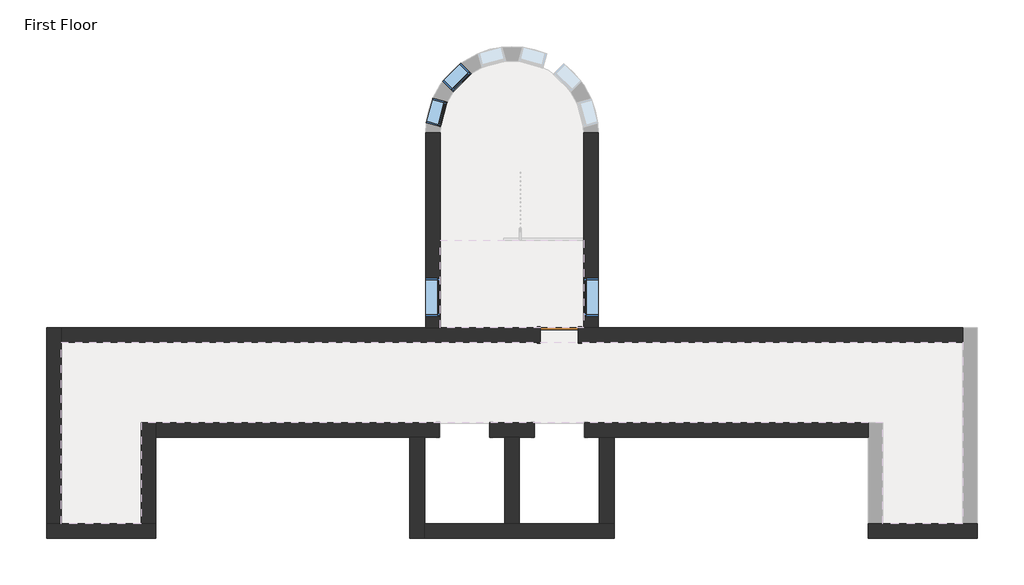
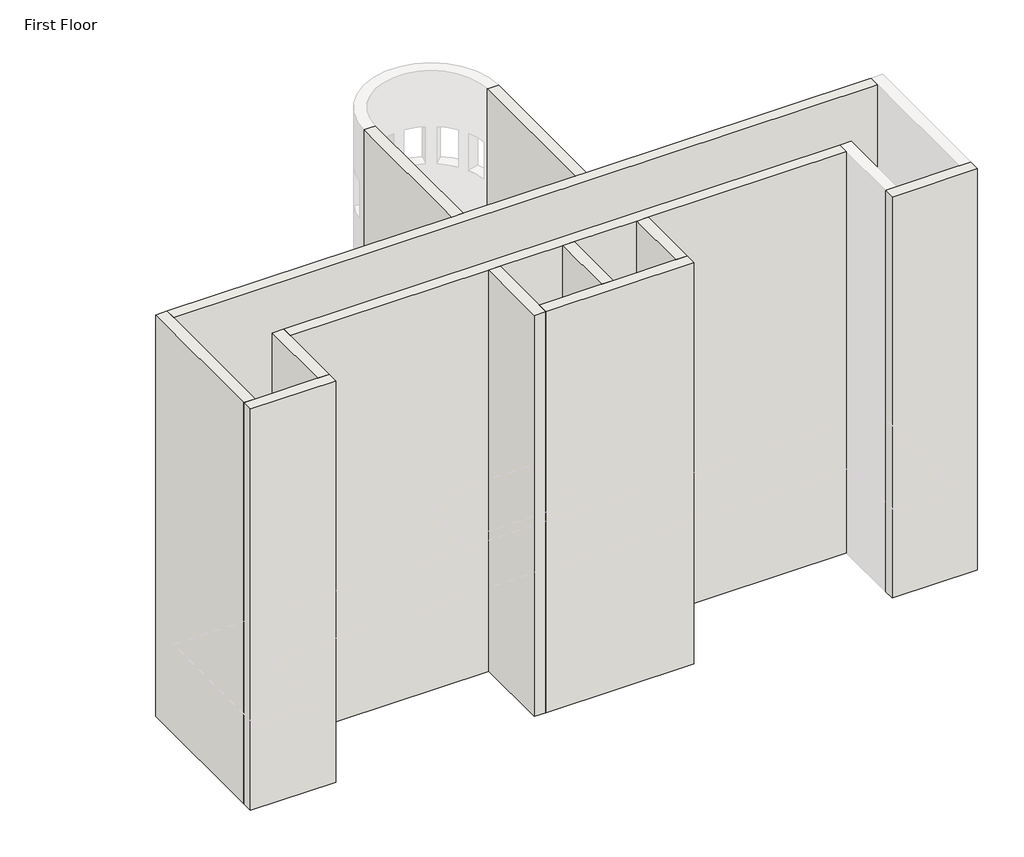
# One storey, part 1 of 5: 12 walls, 4 windows, 1 door.
"""IFC4 building model written with IfcOpenShell, lengths in millimetres."""

from ifc_helpers import new_model, si_unit, frame, origin, origin_with_axes, place, context, project, spatial, polyline, outline, extrude, faceted_brep, transform, mapped, element, save
from components import door_632be17d, window_60baf983, window_15c49d37

model = new_model("IFC4")

# Units and contexts
model_context = context("Model", 3, world=origin())
ifc_project = project(units=[si_unit("LENGTHUNIT", "METRE", prefix="MILLI")], contexts=[model_context])

# Site, building, storey
site = spatial("IfcSite", under=ifc_project)
building = spatial("IfcBuilding", under=site)
storey = spatial("IfcBuildingStorey", under=building, Name="First Floor", Elevation=0.0)

# Door
placement = place(None, origin())
door_shape = door_632be17d(model_context)
element("IfcDoor", 1, ObjectType="Single-Flush : 36\" x 84\"", at=placement, inside=storey, context=model_context, shape_type="MappedRepresentation", body=[
    mapped(door_shape, transform((-5102.6149687, 4715.9758812, 0.0), x_axis=(1.0, 0.0, 0.0), y_axis=(0.0, 1.0, 0.0), z_axis=(0.0, 0.0, 1.0))),
])

# Walls
element("IfcWall", 2, ObjectType="Exterior - Brick on Mtl. Stud", at=placement, inside=storey, context=model_context, shape_type="Brep", body=[
    faceted_brep([(-8707.8274687, 2253.7633812, 0.0), (-8707.8274687, -184.6366188, 0.0), (-8707.8274687, -184.6366188, 13106.4), (-8707.8274687, 2253.7633812, 13106.4), (-8355.4024687, 2253.7633812, 0.0), (-8355.4024687, 2253.7633812, 13106.4), (-8355.4024687, 167.7883812, 13106.4), (-8355.4024687, -184.6366188, 13106.4), (-8355.4024687, -184.6366188, 0.0), (-8355.4024687, 167.7883812, 0.0)], [[[0, 1, 2, 3]], [[4, 5, 6, 7, 8, 9]], [[1, 0, 4, 9, 8]], [[3, 2, 7, 6, 5]], [[2, 1, 8, 7]], [[0, 3, 5, 4]]]),
])
element("IfcWall", 3, ObjectType="Exterior - Brick on Mtl. Stud", at=placement, inside=storey, context=model_context, shape_type="Brep", body=[
    faceted_brep([(-8355.4024687, -184.6366188, 0.0), (-3783.4024687, -184.6366188, 0.0), (-3783.4024687, -184.6366188, 13106.4), (-8355.4024687, -184.6366188, 13106.4), (-8355.4024687, 167.7883812, 0.0), (-8355.4024687, 167.7883812, 13106.4), (-6421.8274687, 167.7883812, 13106.4), (-6069.4024687, 167.7883812, 13106.4), (-4135.8274687, 167.7883812, 13106.4), (-3783.4024687, 167.7883812, 13106.4), (-3783.4024687, 167.7883812, 0.0), (-4135.8274687, 167.7883812, 0.0), (-6069.4024687, 167.7883812, 0.0), (-6421.8274687, 167.7883812, 0.0)], [[[0, 1, 2, 3]], [[4, 5, 6, 7, 8, 9, 10, 11, 12, 13]], [[1, 0, 4, 13, 12, 11, 10]], [[3, 2, 9, 8, 7, 6, 5]], [[2, 1, 10, 9]], [[0, 3, 5, 4]]]),
])
element("IfcWall", 4, ObjectType="Exterior - Brick on Mtl. Stud", at=placement, inside=storey, context=model_context, shape_type="SweptSolid", body=[
    extrude(outline(polyline([(-3783.4024687, 2253.7633812), (-3783.4024687, 167.7883812), (-4135.8274687, 167.7883812), (-4135.8274687, 2253.7633812), (-3783.4024687, 2253.7633812)])), origin_with_axes(), (0.0, 0.0, 1.0), 13106.4),
])
element("IfcWall", 5, ObjectType="Exterior - Brick on Mtl. Stud", at=placement, inside=storey, context=model_context, shape_type="Brep", body=[
    faceted_brep([(-14832.4024687, 2606.1883812, 0.0), (-7998.2149687, 2606.1883812, 0.0), (-7998.2149687, 2253.7633812, 0.0), (-8355.4024687, 2253.7633812, 0.0), (-8707.8274687, 2253.7633812, 0.0), (-14832.4024687, 2253.7633812, 0.0), (-6779.0149687, 2606.1883812, 0.0), (-5712.2149687, 2606.1883812, 0.0), (-5712.2149687, 2253.7633812, 0.0), (-6069.4024687, 2253.7633812, 0.0), (-6421.8274687, 2253.7633812, 0.0), (-6779.0149687, 2253.7633812, 0.0), (-4493.0149687, 2606.1883812, 0.0), (2341.1725313, 2606.1883812, 0.0), (2341.1725313, 2253.7633812, 0.0), (-3783.4024687, 2253.7633812, 0.0), (-4135.8274687, 2253.7633812, 0.0), (-4493.0149687, 2253.7633812, 0.0), (-14832.4024687, 2253.7633812, 13106.4), (-8707.8274687, 2253.7633812, 13106.4), (-8355.4024687, 2253.7633812, 13106.4), (-6421.8274687, 2253.7633812, 13106.4), (-6069.4024687, 2253.7633812, 13106.4), (-4135.8274687, 2253.7633812, 13106.4), (-3783.4024687, 2253.7633812, 13106.4), (2341.1725313, 2253.7633812, 13106.4), (2341.1725313, 2606.1883812, 13106.4), (-14832.4024687, 2606.1883812, 13106.4), (-5712.2149687, 2253.7633812, 2133.6), (-4493.0149687, 2253.7633812, 2133.6), (-7998.2149687, 2253.7633812, 2133.6), (-6779.0149687, 2253.7633812, 2133.6), (-4493.0149687, 2253.7633812, 11277.6), (-4493.0149687, 2253.7633812, 9144.0), (-5712.2149687, 2253.7633812, 9144.0), (-5712.2149687, 2253.7633812, 11277.6), (-6779.0149687, 2253.7633812, 11277.6), (-6779.0149687, 2253.7633812, 9144.0), (-7998.2149687, 2253.7633812, 9144.0), (-7998.2149687, 2253.7633812, 11277.6), (-4493.0149687, 2253.7633812, 5181.6), (-4493.0149687, 2253.7633812, 3048.0), (-5712.2149687, 2253.7633812, 3048.0), (-5712.2149687, 2253.7633812, 5181.6), (-6779.0149687, 2253.7633812, 5181.6), (-6779.0149687, 2253.7633812, 3048.0), (-7998.2149687, 2253.7633812, 3048.0), (-7998.2149687, 2253.7633812, 5181.6), (-4493.0149687, 2253.7633812, 8229.6), (-4493.0149687, 2253.7633812, 6096.0), (-5712.2149687, 2253.7633812, 6096.0), (-5712.2149687, 2253.7633812, 8229.6), (-6779.0149687, 2253.7633812, 8229.6), (-6779.0149687, 2253.7633812, 6096.0), (-7998.2149687, 2253.7633812, 6096.0), (-7998.2149687, 2253.7633812, 8229.6), (-5712.2149687, 2606.1883812, 2133.6), (-6779.0149687, 2606.1883812, 2133.6), (-7998.2149687, 2606.1883812, 2133.6), (-4493.0149687, 2606.1883812, 2133.6), (-4493.0149687, 2606.1883812, 11277.6), (-5712.2149687, 2606.1883812, 11277.6), (-5712.2149687, 2606.1883812, 9144.0), (-4493.0149687, 2606.1883812, 9144.0), (-6779.0149687, 2606.1883812, 11277.6), (-7998.2149687, 2606.1883812, 11277.6), (-7998.2149687, 2606.1883812, 9144.0), (-6779.0149687, 2606.1883812, 9144.0), (-4493.0149687, 2606.1883812, 5181.6), (-5712.2149687, 2606.1883812, 5181.6), (-5712.2149687, 2606.1883812, 3048.0), (-4493.0149687, 2606.1883812, 3048.0), (-6779.0149687, 2606.1883812, 5181.6), (-7998.2149687, 2606.1883812, 5181.6), (-7998.2149687, 2606.1883812, 3048.0), (-6779.0149687, 2606.1883812, 3048.0), (-4493.0149687, 2606.1883812, 8229.6), (-5712.2149687, 2606.1883812, 8229.6), (-5712.2149687, 2606.1883812, 6096.0), (-4493.0149687, 2606.1883812, 6096.0), (-6779.0149687, 2606.1883812, 8229.6), (-7998.2149687, 2606.1883812, 8229.6), (-7998.2149687, 2606.1883812, 6096.0), (-6779.0149687, 2606.1883812, 6096.0)], [[[0, 1, 2, 3, 4, 5]], [[6, 7, 8, 9, 10, 11]], [[12, 13, 14, 15, 16, 17]], [[18, 19, 20, 21, 22, 23, 24, 25, 26, 27]], [[11, 10, 9, 8, 28, 29, 17, 16, 15, 14, 25, 24, 23, 22, 21, 20, 19, 18, 5, 4, 3, 2, 30, 31], [32, 33, 34, 35], [36, 37, 38, 39], [40, 41, 42, 43], [44, 45, 46, 47], [48, 49, 50, 51], [52, 53, 54, 55]], [[56, 7, 6, 57, 58, 1, 0, 27, 26, 13, 12, 59], [60, 61, 62, 63], [64, 65, 66, 67], [68, 69, 70, 71], [72, 73, 74, 75], [76, 77, 78, 79], [80, 81, 82, 83]], [[25, 14, 13, 26]], [[5, 18, 27, 0]], [[11, 31, 57, 6]], [[30, 2, 1, 58]], [[31, 30, 58, 57]], [[17, 29, 59, 12]], [[28, 8, 7, 56]], [[29, 28, 56, 59]], [[33, 32, 60, 63]], [[34, 33, 63, 62]], [[35, 34, 62, 61]], [[32, 35, 61, 60]], [[37, 36, 64, 67]], [[38, 37, 67, 66]], [[39, 38, 66, 65]], [[36, 39, 65, 64]], [[41, 40, 68, 71]], [[42, 41, 71, 70]], [[43, 42, 70, 69]], [[40, 43, 69, 68]], [[45, 44, 72, 75]], [[46, 45, 75, 74]], [[47, 46, 74, 73]], [[44, 47, 73, 72]], [[49, 48, 76, 79]], [[50, 49, 79, 78]], [[51, 50, 78, 77]], [[48, 51, 77, 76]], [[53, 52, 80, 83]], [[54, 53, 83, 82]], [[55, 54, 82, 81]], [[52, 55, 81, 80]]]),
])
element("IfcWall", 6, ObjectType="Exterior - Brick on Mtl. Stud", at=placement, inside=storey, context=model_context, shape_type="SweptSolid", body=[
    extrude(outline(polyline([(4892.1883812, 0.0), (4892.1883812, 13106.4), (9592.7758812, 13106.4), (9592.7758812, 0.0), (4892.1883812, 0.0)]), holes=[polyline([(5173.1758812, 2133.6), (5173.1758812, 914.4), (6087.5758812, 914.4), (6087.5758812, 2133.6), (5173.1758812, 2133.6)]), polyline([(5173.1758812, 11277.6), (5173.1758812, 10058.4), (6087.5758812, 10058.4), (6087.5758812, 11277.6), (5173.1758812, 11277.6)]), polyline([(5173.1758812, 5181.6), (5173.1758812, 3962.4), (6087.5758812, 3962.4), (6087.5758812, 5181.6), (5173.1758812, 5181.6)]), polyline([(5173.1758812, 8229.6), (5173.1758812, 7010.4), (6087.5758812, 7010.4), (6087.5758812, 8229.6), (5173.1758812, 8229.6)])]), frame((-8326.8274687, 0.0, 0.0), z_axis=(1.0, 0.0, 0.0), x_axis=(0.0, 1.0, 0.0)), (0.0, 0.0, 1.0), 352.425),
])
element("IfcWall", 7, ObjectType="Exterior - Brick on Mtl. Stud", at=placement, inside=storey, context=model_context, shape_type="Brep", body=[
    faceted_brep([(4627.1725313, 4539.7633812, 0.0), (-4645.4149687, 4539.7633812, 0.0), (-4645.4149687, 4892.1883812, 0.0), (-4516.8274687, 4892.1883812, 0.0), (-4164.4024687, 4892.1883812, 0.0), (4627.1725313, 4892.1883812, 0.0), (-5559.8149687, 4539.7633812, 0.0), (-17118.4024687, 4539.7633812, 0.0), (-17118.4024687, 4892.1883812, 0.0), (-8326.8274687, 4892.1883812, 0.0), (-7974.4024687, 4892.1883812, 0.0), (-5559.8149687, 4892.1883812, 0.0), (4627.1725313, 4892.1883812, 13106.4), (-4164.4024687, 4892.1883812, 13106.4), (-4516.8274687, 4892.1883812, 13106.4), (-7974.4024687, 4892.1883812, 13106.4), (-8326.8274687, 4892.1883812, 13106.4), (-17118.4024687, 4892.1883812, 13106.4), (-17118.4024687, 4539.7633812, 13106.4), (4627.1725313, 4539.7633812, 13106.4), (-4645.4149687, 4892.1883812, 2133.6), (-5559.8149687, 4892.1883812, 2133.6), (-5559.8149687, 4892.1883812, 9144.0), (-4645.4149687, 4892.1883812, 9144.0), (-4645.4149687, 4892.1883812, 11277.6), (-5559.8149687, 4892.1883812, 11277.6), (-5559.8149687, 4892.1883812, 3048.0), (-4645.4149687, 4892.1883812, 3048.0), (-4645.4149687, 4892.1883812, 5181.6), (-5559.8149687, 4892.1883812, 5181.6), (-5559.8149687, 4892.1883812, 6096.0), (-4645.4149687, 4892.1883812, 6096.0), (-4645.4149687, 4892.1883812, 8229.6), (-5559.8149687, 4892.1883812, 8229.6), (-4645.4149687, 4539.7633812, 2133.6), (-5559.8149687, 4539.7633812, 2133.6), (-5559.8149687, 4539.7633812, 9144.0), (-5559.8149687, 4539.7633812, 11277.6), (-4645.4149687, 4539.7633812, 11277.6), (-4645.4149687, 4539.7633812, 9144.0), (-5559.8149687, 4539.7633812, 3048.0), (-5559.8149687, 4539.7633812, 5181.6), (-4645.4149687, 4539.7633812, 5181.6), (-4645.4149687, 4539.7633812, 3048.0), (-5559.8149687, 4539.7633812, 6096.0), (-5559.8149687, 4539.7633812, 8229.6), (-4645.4149687, 4539.7633812, 8229.6), (-4645.4149687, 4539.7633812, 6096.0)], [[[0, 1, 2, 3, 4, 5]], [[6, 7, 8, 9, 10, 11]], [[12, 13, 14, 15, 16, 17, 18, 19]], [[5, 4, 3, 2, 20, 21, 11, 10, 9, 8, 17, 16, 15, 14, 13, 12], [22, 23, 24, 25], [26, 27, 28, 29], [30, 31, 32, 33]], [[34, 1, 0, 19, 18, 7, 6, 35], [36, 37, 38, 39], [40, 41, 42, 43], [44, 45, 46, 47]], [[5, 12, 19, 0]], [[17, 8, 7, 18]], [[20, 2, 1, 34]], [[21, 20, 34, 35]], [[11, 21, 35, 6]], [[23, 22, 36, 39]], [[24, 23, 39, 38]], [[25, 24, 38, 37]], [[22, 25, 37, 36]], [[27, 26, 40, 43]], [[28, 27, 43, 42]], [[29, 28, 42, 41]], [[26, 29, 41, 40]], [[31, 30, 44, 47]], [[32, 31, 47, 46]], [[33, 32, 46, 45]], [[30, 33, 45, 44]]]),
])
element("IfcWall", 8, ObjectType="Exterior - Brick on Mtl. Stud", at=placement, inside=storey, context=model_context, shape_type="SweptSolid", body=[
    extrude(outline(polyline([(4892.1883812, 0.0), (4892.1883812, 13106.4), (9592.7758812, 13106.4), (9592.7758812, 0.0), (4892.1883812, 0.0)]), holes=[polyline([(6087.5758812, 2133.6), (5173.1758812, 2133.6), (5173.1758812, 914.4), (6087.5758812, 914.4), (6087.5758812, 2133.6)]), polyline([(6087.5758812, 11277.6), (5173.1758812, 11277.6), (5173.1758812, 10058.4), (6087.5758812, 10058.4), (6087.5758812, 11277.6)]), polyline([(6087.5758812, 5181.6), (5173.1758812, 5181.6), (5173.1758812, 3962.4), (6087.5758812, 3962.4), (6087.5758812, 5181.6)]), polyline([(6087.5758812, 8229.6), (5173.1758812, 8229.6), (5173.1758812, 7010.4), (6087.5758812, 7010.4), (6087.5758812, 8229.6)])]), frame((-4516.8274687, 0.0, 0.0), z_axis=(1.0, 0.0, 0.0), x_axis=(0.0, 1.0, 0.0)), (0.0, 0.0, 1.0), 352.425),
])
element("IfcWall", 9, ObjectType="Exterior - Brick on Mtl. Stud", at=placement, inside=storey, context=model_context, shape_type="SweptSolid", body=[
    extrude(outline(polyline([(-6069.4024687, 2253.7633812), (-6069.4024687, 167.7883812), (-6421.8274687, 167.7883812), (-6421.8274687, 2253.7633812), (-6069.4024687, 2253.7633812)])), origin_with_axes(), (0.0, 0.0, 1.0), 13106.4),
])
element("IfcWall", 10, ObjectType="Exterior - Brick on Mtl. Stud", at=placement, inside=storey, context=model_context, shape_type="Brep", body=[
    faceted_brep([(4979.5975313, 167.7883812, 0.0), (4627.1725313, 167.7883812, 0.0), (2693.5975313, 167.7883812, 0.0), (2341.1725313, 167.7883812, 0.0), (2341.1725313, 167.7883812, 13106.4), (2693.5975313, 167.7883812, 13106.4), (4627.1725313, 167.7883812, 13106.4), (4979.5975313, 167.7883812, 13106.4), (4979.5975313, -184.6366188, 0.0), (4979.5975313, -184.6366188, 13106.4), (2341.1725313, -184.6366188, 13106.4), (2341.1725313, -184.6366188, 0.0)], [[[0, 1, 2, 3, 4, 5, 6, 7]], [[8, 9, 10, 11]], [[3, 2, 1, 0, 8, 11]], [[7, 6, 5, 4, 10, 9]], [[4, 3, 11, 10]], [[0, 7, 9, 8]]]),
])
element("IfcWall", 11, ObjectType="Exterior - Brick on Mtl. Stud", at=placement, inside=storey, context=model_context, shape_type="Brep", body=[
    faceted_brep([(-17470.8274687, -184.6366188, 0.0), (-14832.4024687, -184.6366188, 0.0), (-14832.4024687, -184.6366188, 13106.4), (-17470.8274687, -184.6366188, 13106.4), (-17470.8274687, 167.7883812, 0.0), (-17470.8274687, 167.7883812, 13106.4), (-17118.4024687, 167.7883812, 13106.4), (-15184.8274687, 167.7883812, 13106.4), (-14832.4024687, 167.7883812, 13106.4), (-14832.4024687, 167.7883812, 0.0), (-15184.8274687, 167.7883812, 0.0), (-17118.4024687, 167.7883812, 0.0)], [[[0, 1, 2, 3]], [[4, 5, 6, 7, 8, 9, 10, 11]], [[1, 0, 4, 11, 10, 9]], [[3, 2, 8, 7, 6, 5]], [[2, 1, 9, 8]], [[0, 3, 5, 4]]]),
])
element("IfcWall", 12, ObjectType="Exterior - Brick on Mtl. Stud", at=placement, inside=storey, context=model_context, shape_type="Brep", body=[
    faceted_brep([(-15184.8274687, 2606.1883812, 0.0), (-15184.8274687, 167.7883812, 0.0), (-15184.8274687, 167.7883812, 13106.4), (-15184.8274687, 2606.1883812, 13106.4), (-14832.4024687, 2606.1883812, 0.0), (-14832.4024687, 2606.1883812, 13106.4), (-14832.4024687, 2253.7633812, 13106.4), (-14832.4024687, 167.7883812, 13106.4), (-14832.4024687, 167.7883812, 0.0), (-14832.4024687, 2253.7633812, 0.0)], [[[0, 1, 2, 3]], [[4, 5, 6, 7, 8, 9]], [[1, 0, 4, 9, 8]], [[3, 2, 7, 6, 5]], [[0, 3, 5, 4]], [[2, 1, 8, 7]]]),
])
element("IfcWall", 13, ObjectType="Exterior - Brick on Mtl. Stud", at=placement, inside=storey, context=model_context, shape_type="Brep", body=[
    faceted_brep([(-17118.4024687, 167.7883812, 0.0), (-17118.4024687, 4539.7633812, 0.0), (-17118.4024687, 4892.1883812, 0.0), (-17118.4024687, 4892.1883812, 13106.4), (-17118.4024687, 4539.7633812, 13106.4), (-17118.4024687, 167.7883812, 13106.4), (-17470.8274687, 167.7883812, 0.0), (-17470.8274687, 167.7883812, 13106.4), (-17470.8274687, 4892.1883812, 13106.4), (-17470.8274687, 4892.1883812, 0.0)], [[[0, 1, 2, 3, 4, 5]], [[6, 7, 8, 9]], [[2, 1, 0, 6, 9]], [[5, 4, 3, 8, 7]], [[3, 2, 9, 8]], [[0, 5, 7, 6]]]),
])

# Windows
window_shape = window_60baf983(model_context)
element("IfcWindow", 14, ObjectType="Fixed : 24\" x 48\"", at=placement, inside=storey, context=model_context, shape_type="MappedRepresentation", body=[
    mapped(window_shape, transform((-8072.5076754, 10048.7859441, 0.0), x_axis=(-0.2617614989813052, -0.9651325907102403, 0.0), y_axis=(0.9651325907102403, -0.2617614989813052, 0.0), z_axis=(0.0, 0.0, 1.0))),
])
element("IfcWindow", 15, ObjectType="Fixed : 24\" x 48\"", at=placement, inside=storey, context=model_context, shape_type="MappedRepresentation", body=[
    mapped(window_shape, transform((-7599.7454312, 10901.1385333, 0.0), x_axis=(-0.7092584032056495, -0.7049485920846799, 0.0), y_axis=(0.7049485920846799, -0.7092584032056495, 0.0), z_axis=(0.0, 0.0, 1.0))),
])
window_2_shape = window_15c49d37(model_context)
element("IfcWindow", 16, ObjectType="Fixed : 36\" x 48\"", at=placement, inside=storey, context=model_context, shape_type="MappedRepresentation", body=[
    mapped(window_2_shape, transform((-8150.6149687, 5592.2758812, 0.0), x_axis=(0.0, -1.0, 0.0), y_axis=(1.0, 0.0, 0.0), z_axis=(0.0, 0.0, 1.0))),
])
element("IfcWindow", 17, ObjectType="Fixed : 36\" x 48\"", at=placement, inside=storey, context=model_context, shape_type="MappedRepresentation", body=[
    mapped(window_2_shape, transform((-4340.6149687, 5668.4758812, 0.0), x_axis=(0.0, 1.0, 0.0), y_axis=(-1.0, 0.0, 0.0), z_axis=(0.0, 0.0, 1.0))),
])

save(model, "model.ifc")
